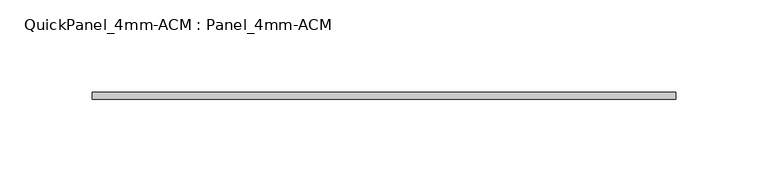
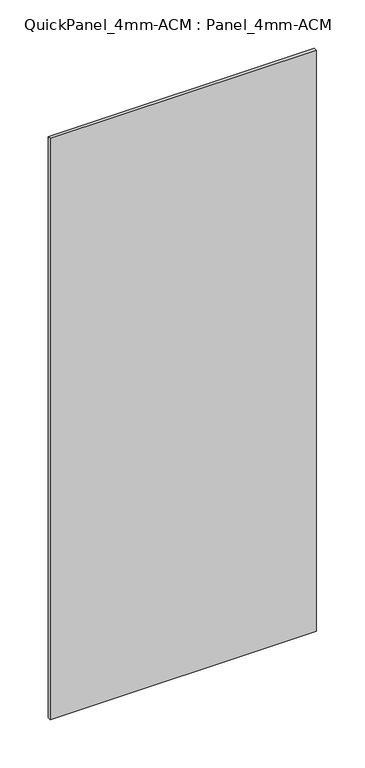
"""IFC4 building model written with IfcOpenShell, lengths in millimetres: plate geometry, QuickPanel_4mm-ACM : Panel_4mm-ACM."""

from ifc_helpers import new_model, si_unit, origin, origin_with_axes, place, context, project, spatial, polyline, outline, extrude, source, transform, mapped, element, save


def quickpanel_4mm_acm_panel_4mm_acm_554f1ddd(model_context):
    return source(origin(), model_context, "Body", "SweptSolid", [
        extrude(outline(polyline([(-158.4062543, -6.096), (158.4062543, -6.096), (158.4062543, -9.906), (-158.4062543, -9.906), (-158.4062543, -6.096)])), origin_with_axes(), (0.0, 0.0, 1.0), 731.7965616),
    ])


if __name__ == "__main__":
    model = new_model("IFC4")
    model_context = context("Model", 3, world=origin())
    ifc_project = project(units=[si_unit("LENGTHUNIT", "METRE", prefix="MILLI")], contexts=[model_context])
    site = spatial("IfcSite", under=ifc_project)
    building = spatial("IfcBuilding", under=site)
    placement = place(None, origin())
    quickpanel_4mm_acm_panel_4mm_acm_shape = quickpanel_4mm_acm_panel_4mm_acm_554f1ddd(model_context)
    element("IfcPlate", 1, ObjectType="QuickPanel_4mm-ACM : Panel_4mm-ACM", at=placement, inside=building, context=model_context, shape_type="MappedRepresentation", body=[
        mapped(quickpanel_4mm_acm_panel_4mm_acm_shape, transform((0.0, 0.0, 0.0), x_axis=(1.0, 0.0, 0.0), y_axis=(0.0, 1.0, 0.0), z_axis=(0.0, 0.0, 1.0))),
    ])
    save(model, "model.ifc")
